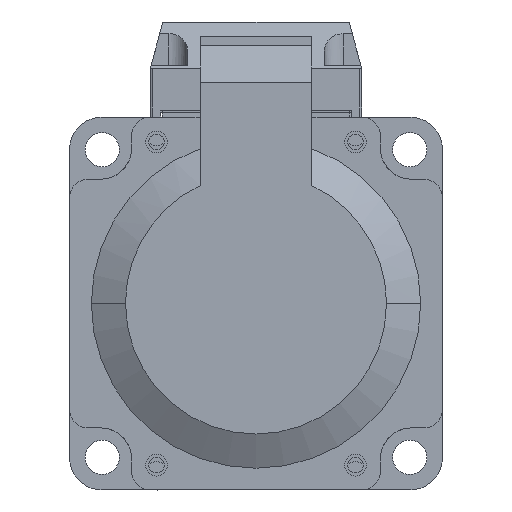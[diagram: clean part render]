
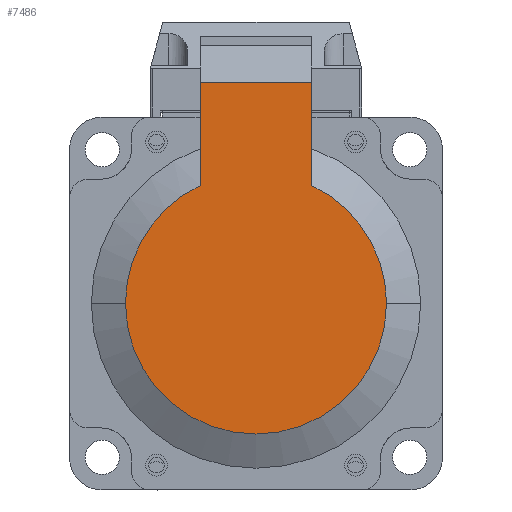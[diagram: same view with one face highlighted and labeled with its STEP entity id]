
A CAD part, left-side view. The second image highlights one B-rep face of the part: STEP entity #7486.
In plain terms, the highlighted planar face has unit normal (-1, 0, 0).
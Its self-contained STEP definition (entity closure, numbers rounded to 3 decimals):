
#16 = EDGE_CURVE ( 'NONE', #14493, #3699, #3142, .T. ) ;
#280 = CARTESIAN_POINT ( 'NONE',  ( -26.5, -9., 35.583 ) ) ;
#703 = EDGE_CURVE ( 'NONE', #2777, #15562, #12251, .T. ) ;
#775 = CARTESIAN_POINT ( 'NONE',  ( -26.5, 21., 0. ) ) ;
#880 = EDGE_CURVE ( 'NONE', #15562, #3365, #2031, .T. ) ;
#1527 = CARTESIAN_POINT ( 'NONE',  ( -26.5, 0., 0. ) ) ;
#1784 = ORIENTED_EDGE ( 'NONE', *, *, #5502, .T. ) ;
#1983 = DIRECTION ( 'NONE',  ( -1., 0., 0. ) ) ;
#1994 = ORIENTED_EDGE ( 'NONE', *, *, #4902, .T. ) ;
#2031 = LINE ( 'NONE', #11897, #8347 ) ;
#2474 = CARTESIAN_POINT ( 'NONE',  ( -26.5, 0., 0. ) ) ;
#2574 = ORIENTED_EDGE ( 'NONE', *, *, #5978, .T. ) ;
#2777 = VERTEX_POINT ( 'NONE', #7626 ) ;
#2990 = CARTESIAN_POINT ( 'NONE',  ( -26.5, 9., 35.583 ) ) ;
#3142 = CIRCLE ( 'NONE', #14515, 21. ) ;
#3231 = CARTESIAN_POINT ( 'NONE',  ( -26.5, 21., 0. ) ) ;
#3365 = VERTEX_POINT ( 'NONE', #280 ) ;
#3597 = AXIS2_PLACEMENT_3D ( 'NONE', #3231, #1983, #12932 ) ;
#3649 = DIRECTION ( 'NONE',  ( 0., 1., 0. ) ) ;
#3699 = VERTEX_POINT ( 'NONE', #8547 ) ;
#4236 = CIRCLE ( 'NONE', #9732, 21. ) ;
#4305 = VERTEX_POINT ( 'NONE', #775 ) ;
#4902 = EDGE_CURVE ( 'NONE', #4305, #14493, #4236, .T. ) ;
#5502 = EDGE_CURVE ( 'NONE', #3699, #3365, #8247, .T. ) ;
#5978 = EDGE_CURVE ( 'NONE', #2777, #4305, #9549, .T. ) ;
#6605 = DIRECTION ( 'NONE',  ( 0., 0., 1. ) ) ;
#6958 = PLANE ( 'NONE',  #3597 ) ;
#7048 = CARTESIAN_POINT ( 'NONE',  ( -26.5, 0., 0. ) ) ;
#7453 = VECTOR ( 'NONE', #9675, 1000. ) ;
#7486 = ADVANCED_FACE ( 'NONE', ( #10960 ), #6958, .T. ) ;
#7592 = DIRECTION ( 'NONE',  ( 0., 1., 0. ) ) ;
#7626 = CARTESIAN_POINT ( 'NONE',  ( -26.5, 9., 18.974 ) ) ;
#8247 = LINE ( 'NONE', #13419, #7453 ) ;
#8299 = ORIENTED_EDGE ( 'NONE', *, *, #703, .F. ) ;
#8347 = VECTOR ( 'NONE', #13134, 1000. ) ;
#8547 = CARTESIAN_POINT ( 'NONE',  ( -26.5, -9., 18.974 ) ) ;
#8815 = EDGE_LOOP ( 'NONE', ( #8299, #2574, #1994, #14723, #1784, #14812 ) ) ;
#9047 = VECTOR ( 'NONE', #6605, 1000. ) ;
#9549 = CIRCLE ( 'NONE', #10943, 21. ) ;
#9675 = DIRECTION ( 'NONE',  ( 0., 0., 1. ) ) ;
#9732 = AXIS2_PLACEMENT_3D ( 'NONE', #7048, #14517, #15646 ) ;
#10943 = AXIS2_PLACEMENT_3D ( 'NONE', #2474, #15824, #3649 ) ;
#10960 = FACE_OUTER_BOUND ( 'NONE', #8815, .T. ) ;
#11312 = DIRECTION ( 'NONE',  ( -1., 0., 0. ) ) ;
#11897 = CARTESIAN_POINT ( 'NONE',  ( -26.5, 9., 35.583 ) ) ;
#12251 = LINE ( 'NONE', #2990, #9047 ) ;
#12932 = DIRECTION ( 'NONE',  ( 0., 1., 0. ) ) ;
#13134 = DIRECTION ( 'NONE',  ( 0., -1., 0. ) ) ;
#13183 = CARTESIAN_POINT ( 'NONE',  ( -26.5, 9., 35.583 ) ) ;
#13419 = CARTESIAN_POINT ( 'NONE',  ( -26.5, -9., 35.583 ) ) ;
#13749 = CARTESIAN_POINT ( 'NONE',  ( -26.5, -21., 0. ) ) ;
#14493 = VERTEX_POINT ( 'NONE', #13749 ) ;
#14515 = AXIS2_PLACEMENT_3D ( 'NONE', #1527, #11312, #7592 ) ;
#14517 = DIRECTION ( 'NONE',  ( -1., 0., 0. ) ) ;
#14723 = ORIENTED_EDGE ( 'NONE', *, *, #16, .T. ) ;
#14812 = ORIENTED_EDGE ( 'NONE', *, *, #880, .F. ) ;
#15562 = VERTEX_POINT ( 'NONE', #13183 ) ;
#15646 = DIRECTION ( 'NONE',  ( 0., 1., 0. ) ) ;
#15824 = DIRECTION ( 'NONE',  ( -1., 0., 0. ) ) ;
